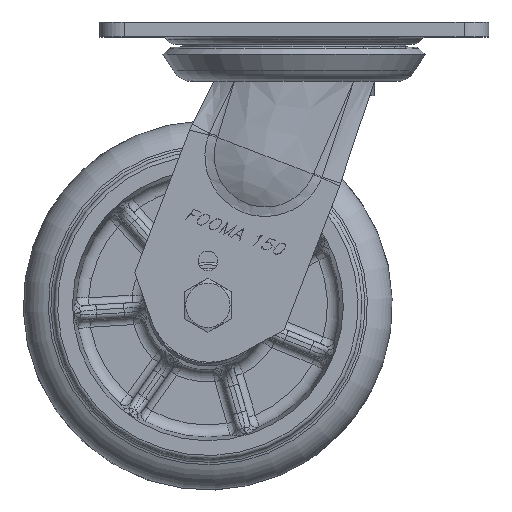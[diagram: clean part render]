
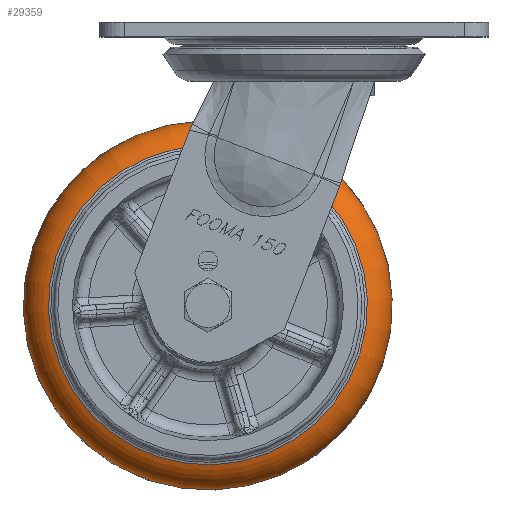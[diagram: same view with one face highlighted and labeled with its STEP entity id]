
A CAD part, top view. The second image highlights one B-rep face of the part: STEP entity #29359.
In plain terms, the highlighted toroidal (fillet/blend) face has major radius 59.865 mm and minor radius 15 mm.
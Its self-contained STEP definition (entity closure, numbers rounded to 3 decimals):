
#610=TOROIDAL_SURFACE('',#31129,59.865,15.);
#6981=FACE_BOUND('',#9791,.T.);
#8051=FACE_OUTER_BOUND('',#9790,.T.);
#9790=EDGE_LOOP('',(#23207));
#9791=EDGE_LOOP('',(#23208,#23209));
#10540=CIRCLE('',#31128,64.78);
#10541=CIRCLE('',#31130,74.85);
#10542=CIRCLE('',#31131,74.85);
#12824=VERTEX_POINT('',#46797);
#12825=VERTEX_POINT('',#46800);
#12826=VERTEX_POINT('',#46801);
#16348=EDGE_CURVE('',#12824,#12824,#10540,.T.);
#16349=EDGE_CURVE('',#12825,#12826,#10541,.T.);
#16350=EDGE_CURVE('',#12826,#12825,#10542,.T.);
#23207=ORIENTED_EDGE('',*,*,#16348,.T.);
#23208=ORIENTED_EDGE('',*,*,#16349,.F.);
#23209=ORIENTED_EDGE('',*,*,#16350,.F.);
#29359=ADVANCED_FACE('',(#8051,#6981),#610,.T.);
#31128=AXIS2_PLACEMENT_3D('',#46798,#36868,#36869);
#31129=AXIS2_PLACEMENT_3D('',#46799,#36870,#36871);
#31130=AXIS2_PLACEMENT_3D('',#46802,#36872,#36873);
#31131=AXIS2_PLACEMENT_3D('',#46803,#36874,#36875);
#36868=DIRECTION('center_axis',(0.,0.,
-1.));
#36869=DIRECTION('ref_axis',(-0.999,-0.039,0.));
#36870=DIRECTION('center_axis',(0.,0.,
-1.));
#36871=DIRECTION('ref_axis',(-0.999,-0.039,0.));
#36872=DIRECTION('center_axis',(0.,0.,
-1.));
#36873=DIRECTION('ref_axis',(-0.999,-0.039,0.));
#36874=DIRECTION('center_axis',(0.,0.,
-1.));
#36875=DIRECTION('ref_axis',(-0.999,-0.039,0.));
#46797=CARTESIAN_POINT('',(-34.912,-40.879,20.209));
#46798=CARTESIAN_POINT('Origin',(-32.37,-105.609,20.209));
#46799=CARTESIAN_POINT('Origin',(-32.37,-105.609,6.037));
#46800=CARTESIAN_POINT('',(-35.308,-30.817,6.708));
#46801=CARTESIAN_POINT('',(42.422,-102.672,6.708));
#46802=CARTESIAN_POINT('Origin',(-32.37,-105.609,6.708));
#46803=CARTESIAN_POINT('Origin',(-32.37,-105.609,6.708));
